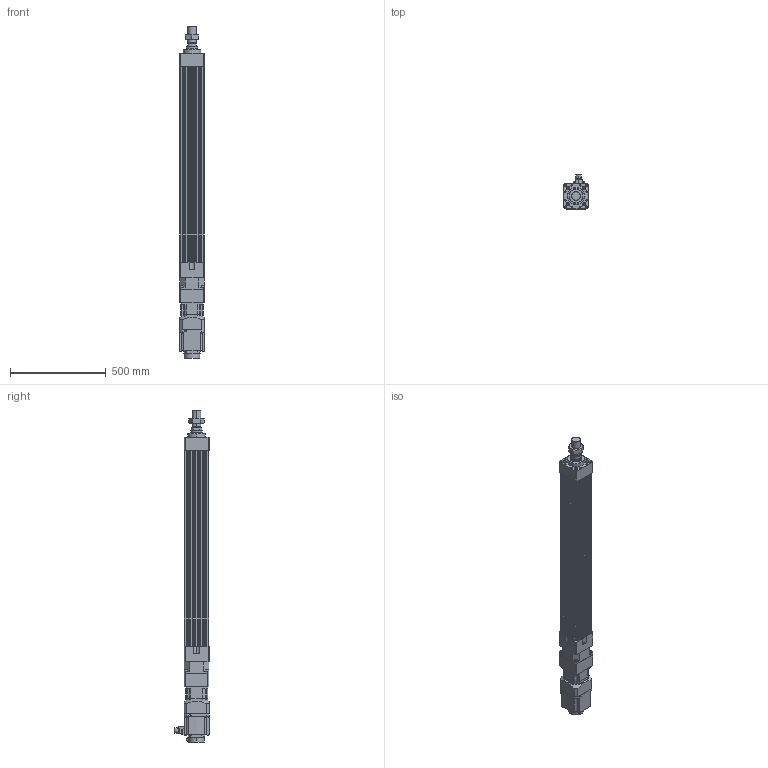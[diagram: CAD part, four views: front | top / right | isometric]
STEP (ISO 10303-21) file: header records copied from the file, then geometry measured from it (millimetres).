
FILE_DESCRIPTION (( 'STEP AP203' ), '1' );
FILE_NAME ('HES130NS(FS)(HS)-S800-W015G00-M.STEP', '2023-01-30T08:34:11', ( 'tms' ), ( '' ), 'SwSTEP 2.0', 'SolidWorks 2013', '' );
FILE_SCHEMA (( 'CONFIG_CONTROL_DESIGN' ));
Length unit declared in the file: millimetre
Products named in the file (8): HES130NS(FS)(HS)-S800-W015G00-M; HES130-S800-G120; P0401400706; HES130 ROD M ST800; M45X1.5P; HG-SR152; AB115-003[HG-SR152]; AB1151
Assembly tree (7 placements, depth 3):
  HES130NS(FS)(HS)-S800-W015G00-M
    HES130-S800-G120
    HES130 ROD M ST800
    M45X1.5P
    AB115-003[HG-SR152]
      AB1151
      P0401400706
    HG-SR152
Bounding box: 130 x 177.49 x 1729.5 mm (x, y, z)
Volume: 13573155.3 mm3; surface area: 1815530.6 mm2
Topology: 4 solids, 15 shells, 1220 faces, 3076 edges, 1983 vertices
Faces by surface type: cylinder 553, plane 551, cone 104, bspline 8, torus 4
Entity records: 38254 total; most frequent: CARTESIAN_POINT 7242, DIRECTION 6653, ORIENTED_EDGE 6060, EDGE_CURVE 3040, AXIS2_PLACEMENT_3D 2462, VERTEX_POINT 1983, LINE 1729, VECTOR 1729
